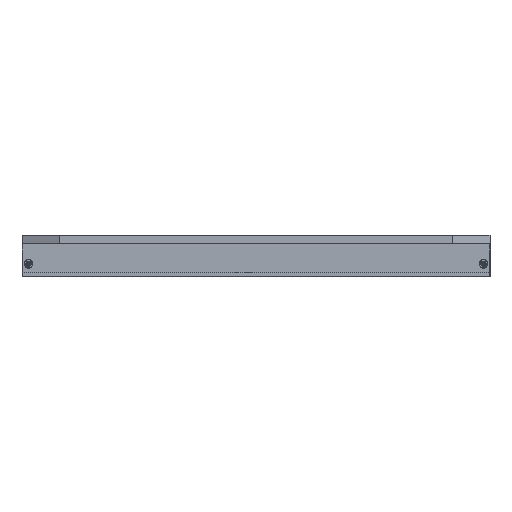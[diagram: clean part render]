
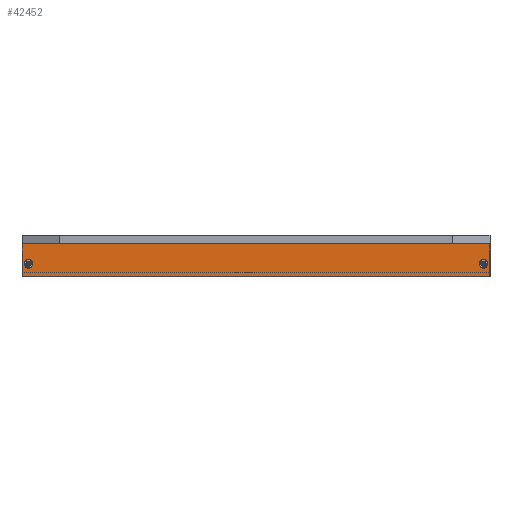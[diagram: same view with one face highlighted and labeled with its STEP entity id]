
A CAD part, front view. The second image highlights one B-rep face of the part: STEP entity #42452.
In plain terms, the highlighted planar face has unit normal (0, -1, 0).
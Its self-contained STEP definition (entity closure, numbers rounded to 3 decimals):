
#7739=DIRECTION('',(-1.,0.,0.));
#7740=VECTOR('',#7739,212.6);
#7741=CARTESIAN_POINT('',(106.3,-131.5,0.));
#7742=LINE('',#7741,#7740);
#12617=DIRECTION('',(0.,0.,-1.));
#12618=VECTOR('',#12617,14.8);
#12619=CARTESIAN_POINT('',(106.3,-131.5,0.));
#12620=LINE('',#12619,#12618);
#12621=CARTESIAN_POINT('',(-103.5,-131.5,-9.));
#12622=DIRECTION('',(0.,1.,0.));
#12623=DIRECTION('',(0.,0.,1.));
#12624=AXIS2_PLACEMENT_3D('',#12621,#12622,#12623);
#12626=CARTESIAN_POINT('',(-103.5,-131.5,-9.));
#12627=DIRECTION('',(0.,1.,0.));
#12628=DIRECTION('',(0.,0.,-1.));
#12629=AXIS2_PLACEMENT_3D('',#12626,#12627,#12628);
#12631=CARTESIAN_POINT('',(103.5,-131.5,-9.));
#12632=DIRECTION('',(0.,1.,0.));
#12633=DIRECTION('',(0.,0.,-1.));
#12634=AXIS2_PLACEMENT_3D('',#12631,#12632,#12633);
#12636=CARTESIAN_POINT('',(103.5,-131.5,-9.));
#12637=DIRECTION('',(0.,1.,0.));
#12638=DIRECTION('',(0.,0.,1.));
#12639=AXIS2_PLACEMENT_3D('',#12636,#12637,#12638);
#12641=DIRECTION('',(1.,0.,0.));
#12642=VECTOR('',#12641,212.6);
#12643=CARTESIAN_POINT('',(-106.3,-131.5,-14.8));
#12644=LINE('',#12643,#12642);
#12645=DIRECTION('',(0.,0.,-1.));
#12646=VECTOR('',#12645,14.8);
#12647=CARTESIAN_POINT('',(-106.3,-131.5,0.));
#12648=LINE('',#12647,#12646);
#19335=CARTESIAN_POINT('',(-106.3,-131.5,-14.8));
#19336=VERTEX_POINT('',#19335);
#19347=CARTESIAN_POINT('',(106.3,-131.5,-14.8));
#19348=VERTEX_POINT('',#19347);
#19349=CARTESIAN_POINT('',(103.5,-131.5,-7.));
#19350=CARTESIAN_POINT('',(103.5,-131.5,-11.));
#19351=VERTEX_POINT('',#19349);
#19352=VERTEX_POINT('',#19350);
#19353=CARTESIAN_POINT('',(-103.5,-131.5,-11.));
#19354=CARTESIAN_POINT('',(-103.5,-131.5,-7.));
#19355=VERTEX_POINT('',#19353);
#19356=VERTEX_POINT('',#19354);
#23303=CARTESIAN_POINT('',(-106.3,-131.5,0.));
#23305=VERTEX_POINT('',#23303);
#23306=CARTESIAN_POINT('',(106.3,-131.5,0.));
#23307=VERTEX_POINT('',#23306);
#42428=CARTESIAN_POINT('',(-106.5,-131.5,-15.));
#42429=DIRECTION('',(0.,-1.,0.));
#42430=DIRECTION('',(0.,0.,1.));
#42431=AXIS2_PLACEMENT_3D('',#42428,#42429,#42430);
#42432=PLANE('',#42431);
#42433=ORIENTED_EDGE('',*,*,#42423,.T.);
#42434=ORIENTED_EDGE('',*,*,#42393,.F.);
#42436=ORIENTED_EDGE('',*,*,#42435,.F.);
#42437=ORIENTED_EDGE('',*,*,#35309,.F.);
#42438=EDGE_LOOP('',(#42433,#42434,#42436,#42437));
#42439=FACE_OUTER_BOUND('',#42438,.F.);
#42441=ORIENTED_EDGE('',*,*,#42440,.F.);
#42443=ORIENTED_EDGE('',*,*,#42442,.F.);
#42444=EDGE_LOOP('',(#42441,#42443));
#42445=FACE_BOUND('',#42444,.F.);
#42447=ORIENTED_EDGE('',*,*,#42446,.F.);
#42449=ORIENTED_EDGE('',*,*,#42448,.F.);
#42450=EDGE_LOOP('',(#42447,#42449));
#42451=FACE_BOUND('',#42450,.F.);
#12625=CIRCLE('',#12624,2.);
#12630=CIRCLE('',#12629,2.);
#12635=CIRCLE('',#12634,2.);
#12640=CIRCLE('',#12639,2.);
#35309=EDGE_CURVE('',#23307,#23305,#7742,.T.);
#42393=EDGE_CURVE('',#19336,#19348,#12644,.T.);
#42423=EDGE_CURVE('',#23307,#19348,#12620,.T.);
#42435=EDGE_CURVE('',#23305,#19336,#12648,.T.);
#42440=EDGE_CURVE('',#19352,#19351,#12635,.T.);
#42442=EDGE_CURVE('',#19351,#19352,#12640,.T.);
#42446=EDGE_CURVE('',#19356,#19355,#12625,.T.);
#42448=EDGE_CURVE('',#19355,#19356,#12630,.T.);
#42452=ADVANCED_FACE('',(#42439,#42445,#42451),#42432,.T.);
